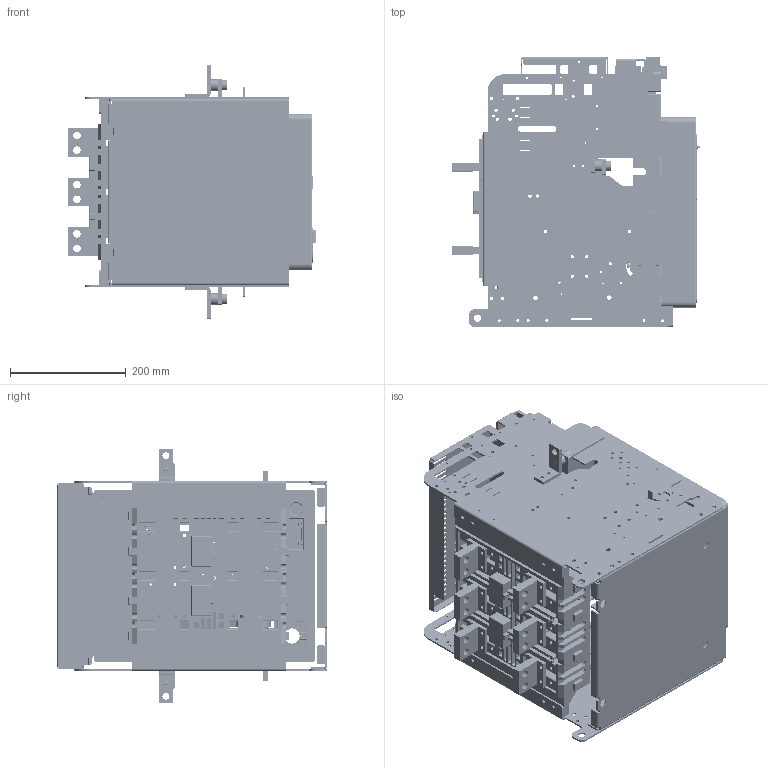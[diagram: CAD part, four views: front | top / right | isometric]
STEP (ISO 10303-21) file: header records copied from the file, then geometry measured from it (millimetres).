
FILE_DESCRIPTION((''),'2;1');
FILE_NAME('HG_01_A163H_ASM_ASM','2019-03-27T',('HHI'),(''),'PRO/ENGINEER BY PARAMETRIC TECHNOLOGY CORPORATION, 2012453','PRO/ENGINEER BY PARAMETRIC TECHNOLOGY CORPORATION, 2012453','');
FILE_SCHEMA(('CONFIG_CONTROL_DESIGN'));
Products named in the file (38): MANIFOLD_SOLID_BREP_10044; MANIFOLD_SOLID_BREP_10264; MAIN_SC-DR-FRAME_L_48_ASM; MAIN_SC_DR_BASE_203_11; MANIFOLD_SOLID_BREP_25959; MANIFOLD_SOLID_BREP_26179; MAIN_SC-DR-FRAME_R_47_ASM; SC_TERMINAL_MOLD203_11; SC_CO_JACK_DFC_203_12; MAIN_SC-CONTROL_JACK-CRADLE_41; ACB-HIAN-REDRAW-BODY_SC_CONTROL; TERMINAL_A16HV_17; SC_CONTROL_JACK_32; SC_DR_DEVICE_COVER2_32; SC_DR_LOCK_PUSH_BUTTON_32; SC_MANUAL_POSITION_LOCK_32; SC-DR-INDICATOR_SAMPLE_34; DR_COVER_SAMPLE_ASM_33_ASM; MAIN_SC-OCR-COVER-U-DD-RE_33; MAIN_SC-OCR-PROTECTION-COVER-RE; MAIN_SC-OCR-LOWER-COVER-RE_32; OCR_COVER_SAMPLE_ASM_33_ASM; N_CHARGE_HANDLE_29; COVER203_ASSY_ASM_36_ASM; U_ARC_SHIELD_203_7; SC-FIX-BLOCK-L_3; FIX_BODY_EXTRA_3; FIX_BLOCK_CRADLE_6; BOLT_5; FIX_BODY_ASM_L_ASM_4_ASM; SC-FIX-BLOCK-R_6; SC-FIX-BLOCK-SUP-R_4; FIX_BODY_ASM_R_ASM_7_ASM; A163H_ASM_26_ASM; HG_FRONT_COVER_20; 4AT-06477S03; 4AT-06477S04; HG_01_A163H_ASM_ASM
Assembly tree (44 placements, depth 5):
  HG_01_A163H_ASM_ASM
    A163H_ASM_26_ASM
      MAIN_SC-DR-FRAME_L_48_ASM
        MANIFOLD_SOLID_BREP_10044
        MANIFOLD_SOLID_BREP_10264
      MAIN_SC_DR_BASE_203_11
      MAIN_SC-DR-FRAME_R_47_ASM
        MANIFOLD_SOLID_BREP_25959
        MANIFOLD_SOLID_BREP_26179
      SC_TERMINAL_MOLD203_11
      SC_CO_JACK_DFC_203_12
      MAIN_SC-CONTROL_JACK-CRADLE_41
      ACB-HIAN-REDRAW-BODY_SC_CONTROL
      TERMINAL_A16HV_17  x6
      COVER203_ASSY_ASM_36_ASM
        SC_CONTROL_JACK_32
        DR_COVER_SAMPLE_ASM_33_ASM
          SC_DR_DEVICE_COVER2_32
          SC_DR_LOCK_PUSH_BUTTON_32
          SC_MANUAL_POSITION_LOCK_32
          SC-DR-INDICATOR_SAMPLE_34
        OCR_COVER_SAMPLE_ASM_33_ASM
          MAIN_SC-OCR-COVER-U-DD-RE_33
          MAIN_SC-OCR-PROTECTION-COVER-RE
          MAIN_SC-OCR-LOWER-COVER-RE_32
        N_CHARGE_HANDLE_29
      U_ARC_SHIELD_203_7
      FIX_BODY_ASM_L_ASM_4_ASM
        SC-FIX-BLOCK-L_3
        FIX_BODY_EXTRA_3
        FIX_BLOCK_CRADLE_6
        BOLT_5
      FIX_BODY_ASM_R_ASM_7_ASM
        SC-FIX-BLOCK-R_6
        SC-FIX-BLOCK-SUP-R_4
        FIX_BLOCK_CRADLE_6
        BOLT_5
    HG_FRONT_COVER_20
    4AT-06477S03
    4AT-06477S04
Bounding box: 428.03 x 466.35 x 440.1 mm (x, y, z)
Volume: 4310934.7 mm3; surface area: 2852063.8 mm2
Topology: 36 solids, 53 shells, 13760 faces, 40418 edges, 26486 vertices
Faces by surface type: plane 10512, cylinder 2617, torus 247, extrusion 175, sphere 110, bspline 50, cone 49
Entity records: 454120 total; most frequent: CARTESIAN_POINT 85976, ORIENTED_EDGE 79502, DIRECTION 71949, EDGE_CURVE 39882, VECTOR 33569, LINE 33394, VERTEX_POINT 26158, AXIS2_PLACEMENT_3D 19190
